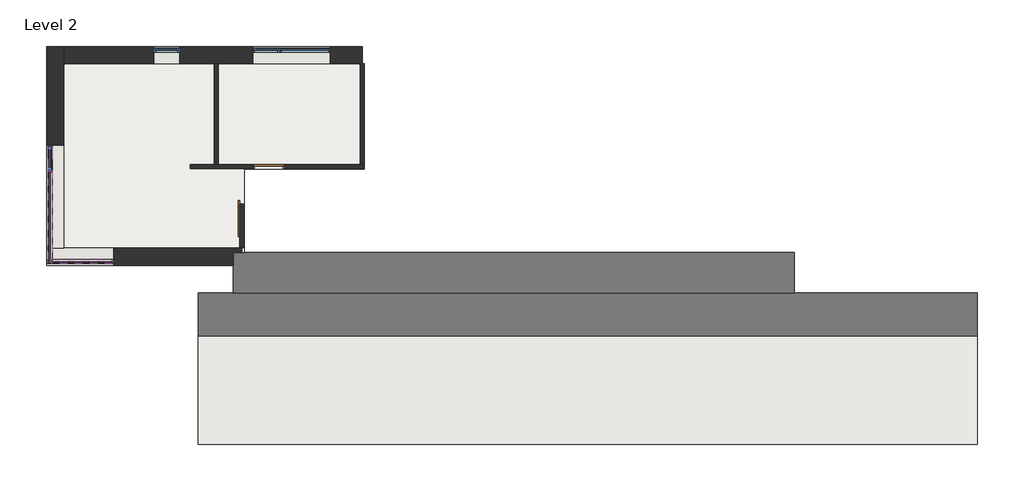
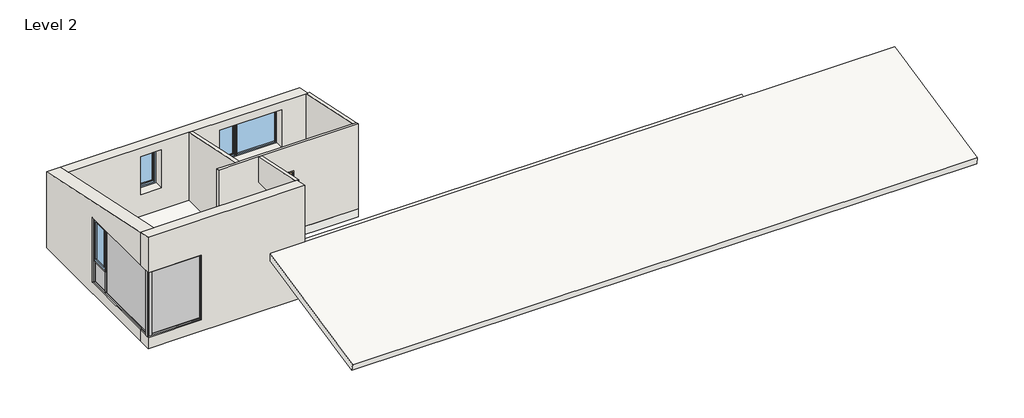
# One storey: 13 members, 7 walls, 4 plates, 3 windows, 2 doors, 2 roofs, 1 slab.
"""IFC4 building model written with IfcOpenShell, lengths in millimetres."""

from ifc_helpers import new_model, si_unit, frame, origin, place, context, project, spatial, polyline, outline, extrude, faceted_brep, transform, mapped, element, save
from components import int_single_flush_900x2200_mm_8e8544e1, int_sliding_door_on_wall_m9_x22_8b50374d, rectangular_mullion_exterior_115x115mm_57de83c7, rectangular_mullion_exterior_50x115mm_8158ba62, rectangular_mullion_exterior_50x115mm_e2bb2832, rectangular_mullion_exterior_50x115mm_ecb5ba73, rectangular_mullion_exterior_50x115mm_c391e601, rectangular_mullion_exterior_50x115mm_3f1db0ee, rectangular_mullion_exterior_50x115mm_459bfba9, rectangular_mullion_exterior_50x115mm_824df4a9, rectangular_mullion_exterior_50x115mm_8a649f50, rectangular_mullion_exterior_50x115mm_27772c88, empty_system_panel_empty_d00b11f0, system_panel_exterior_glass_22mm_989a1269, system_panel_exterior_glass_22mm_f0f81b33, system_panel_exterior_glass_22mm_53e73ce7, cw_single_light_8c0b10de, single_light_720x1400_mm_b30d6d94, window_assembly_individual_2160x1400_mm_0ca40763

model = new_model("IFC4")

# Units and contexts
model_context = context("Model", 3, world=origin())
ifc_project = project(units=[si_unit("LENGTHUNIT", "METRE", prefix="MILLI")], contexts=[model_context])

# Site, building, storey
site = spatial("IfcSite", under=ifc_project)
building = spatial("IfcBuilding", under=site)
storey = spatial("IfcBuildingStorey", under=building, Name="Level 2", Elevation=2000.0)

# Doors
placement = place(None, origin())
int_single_flush_900x2200_mm_shape = int_single_flush_900x2200_mm_8e8544e1(model_context)
element("IfcDoor", 1, ObjectType="Int. Single-Flush : 900x2200 mm", at=placement, inside=storey, context=model_context, shape_type="MappedRepresentation", body=[
    mapped(int_single_flush_900x2200_mm_shape, transform((5130.0, 6600.0, 2000.0), x_axis=(-1.0, 0.0, 0.0), y_axis=(0.0, -1.0, 0.0), z_axis=(0.0, 0.0, 1.0))),
])
int_sliding_door_on_wall_m9_x22_shape = int_sliding_door_on_wall_m9_x22_8b50374d(model_context)
element("IfcDoor", 2, ObjectType="Int. Sliding Door on wall : M9 x22", at=placement, inside=storey, context=model_context, shape_type="MappedRepresentation", body=[
    mapped(int_sliding_door_on_wall_m9_x22_shape, transform((4430.0, 6036.0, 2000.0), x_axis=(0.0, 1.0, 0.0), y_axis=(-1.0, 0.0, 0.0), z_axis=(0.0, 0.0, 1.0))),
])

# Members
rectangular_mullion_exterior_115x115mm_shape = rectangular_mullion_exterior_115x115mm_57de83c7(model_context)
element("IfcMember", 3, ObjectType="Rectangular Mullion : Exterior - 115x115mm", at=placement, inside=storey, context=model_context, shape_type="MappedRepresentation", body=[
    mapped(rectangular_mullion_exterior_115x115mm_shape, transform((-972.5, 3890.0, 2000.0), x_axis=(-1.0, 0.0, 0.0), y_axis=(0.0, 1.0, 0.0), z_axis=(0.0, 0.0, -1.0))),
])
rectangular_mullion_exterior_50x115mm_shape = rectangular_mullion_exterior_50x115mm_8158ba62(model_context)
element("IfcMember", 4, ObjectType="Rectangular Mullion : Exterior - 50x115mm", at=placement, inside=storey, context=model_context, shape_type="MappedRepresentation", body=[
    mapped(rectangular_mullion_exterior_50x115mm_shape, transform((800.0, 3890.0, 4400.0), x_axis=(1.0, 0.0, 0.0), y_axis=(0.0, 1.0, 0.0), z_axis=(0.0, 0.0, 1.0))),
])
rectangular_mullion_exterior_50x115mm_2_shape = rectangular_mullion_exterior_50x115mm_e2bb2832(model_context)
element("IfcMember", 5, ObjectType="Rectangular Mullion : Exterior - 50x115mm", at=placement, inside=storey, context=model_context, shape_type="MappedRepresentation", body=[
    mapped(rectangular_mullion_exterior_50x115mm_2_shape, transform((-915.0, 3890.0, 4400.0), x_axis=(0.0, 0.0, 1.0), y_axis=(0.0, 1.0, 0.0), z_axis=(-1.0, 0.0, 0.0))),
])
element("IfcMember", 6, ObjectType="Rectangular Mullion : Exterior - 50x115mm", at=placement, inside=storey, context=model_context, shape_type="MappedRepresentation", body=[
    mapped(rectangular_mullion_exterior_50x115mm_2_shape, transform((750.0, 3890.0, 2000.0), x_axis=(0.0, 0.0, -1.0), y_axis=(0.0, 1.0, 0.0), z_axis=(1.0, 0.0, 0.0))),
])
rectangular_mullion_exterior_50x115mm_3_shape = rectangular_mullion_exterior_50x115mm_ecb5ba73(model_context)
element("IfcMember", 7, ObjectType="Rectangular Mullion : Exterior - 50x115mm", at=placement, inside=storey, context=model_context, shape_type="MappedRepresentation", body=[
    mapped(rectangular_mullion_exterior_50x115mm_3_shape, transform((-1030.0, 7150.0, 2800.0), x_axis=(0.0, 0.0, 1.0), y_axis=(1.0, 0.0, 0.0), z_axis=(0.0, 1.0, 0.0))),
])
rectangular_mullion_exterior_50x115mm_4_shape = rectangular_mullion_exterior_50x115mm_c391e601(model_context)
element("IfcMember", 8, ObjectType="Rectangular Mullion : Exterior - 50x115mm", at=placement, inside=storey, context=model_context, shape_type="MappedRepresentation", body=[
    mapped(rectangular_mullion_exterior_50x115mm_4_shape, transform((-1030.0, 7200.0, 2000.0), x_axis=(0.0, 1.0, 0.0), y_axis=(1.0, 0.0, 0.0), z_axis=(0.0, 0.0, -1.0))),
])
rectangular_mullion_exterior_50x115mm_5_shape = rectangular_mullion_exterior_50x115mm_3f1db0ee(model_context)
element("IfcMember", 9, ObjectType="Rectangular Mullion : Exterior - 50x115mm", at=placement, inside=storey, context=model_context, shape_type="MappedRepresentation", body=[
    mapped(rectangular_mullion_exterior_50x115mm_5_shape, transform((-1030.0, 7200.0, 2800.0), x_axis=(0.0, 1.0, 0.0), y_axis=(1.0, 0.0, 0.0), z_axis=(0.0, 0.0, -1.0))),
])
rectangular_mullion_exterior_50x115mm_6_shape = rectangular_mullion_exterior_50x115mm_459bfba9(model_context)
element("IfcMember", 10, ObjectType="Rectangular Mullion : Exterior - 50x115mm", at=placement, inside=storey, context=model_context, shape_type="MappedRepresentation", body=[
    mapped(rectangular_mullion_exterior_50x115mm_6_shape, transform((-1030.0, 6480.0, 2050.0), x_axis=(0.0, 1.0, 0.0), y_axis=(1.0, 0.0, 0.0), z_axis=(0.0, 0.0, -1.0))),
])
rectangular_mullion_exterior_50x115mm_7_shape = rectangular_mullion_exterior_50x115mm_824df4a9(model_context)
element("IfcMember", 11, ObjectType="Rectangular Mullion : Exterior - 50x115mm", at=placement, inside=storey, context=model_context, shape_type="MappedRepresentation", body=[
    mapped(rectangular_mullion_exterior_50x115mm_7_shape, transform((-1030.0, 6480.0, 2000.0), x_axis=(0.0, 0.0, -1.0), y_axis=(1.0, 0.0, 0.0), z_axis=(0.0, -1.0, 0.0))),
])
element("IfcMember", 12, ObjectType="Rectangular Mullion : Exterior - 50x115mm", at=placement, inside=storey, context=model_context, shape_type="MappedRepresentation", body=[
    mapped(rectangular_mullion_exterior_50x115mm_7_shape, transform((-1030.0, 7150.0, 4400.0), x_axis=(0.0, 0.0, 1.0), y_axis=(1.0, 0.0, 0.0), z_axis=(0.0, 1.0, 0.0))),
])
rectangular_mullion_exterior_50x115mm_8_shape = rectangular_mullion_exterior_50x115mm_8a649f50(model_context)
element("IfcMember", 13, ObjectType="Rectangular Mullion : Exterior - 50x115mm", at=placement, inside=storey, context=model_context, shape_type="MappedRepresentation", body=[
    mapped(rectangular_mullion_exterior_50x115mm_8_shape, transform((-1030.0, 6480.0, 2800.0), x_axis=(0.0, 1.0, 0.0), y_axis=(1.0, 0.0, 0.0), z_axis=(0.0, 0.0, -1.0))),
])
rectangular_mullion_exterior_50x115mm_9_shape = rectangular_mullion_exterior_50x115mm_27772c88(model_context)
element("IfcMember", 14, ObjectType="Rectangular Mullion : Exterior - 50x115mm", at=placement, inside=storey, context=model_context, shape_type="MappedRepresentation", body=[
    mapped(rectangular_mullion_exterior_50x115mm_9_shape, transform((-1030.0, 4005.0, 2000.0), x_axis=(0.0, 0.0, -1.0), y_axis=(1.0, 0.0, 0.0), z_axis=(0.0, -1.0, 0.0))),
])
element("IfcMember", 15, ObjectType="Rectangular Mullion : Exterior - 50x115mm", at=placement, inside=storey, context=model_context, shape_type="MappedRepresentation", body=[
    mapped(rectangular_mullion_exterior_50x115mm_9_shape, transform((-1030.0, 6480.0, 4400.0), x_axis=(0.0, 0.0, 1.0), y_axis=(1.0, 0.0, 0.0), z_axis=(0.0, 1.0, 0.0))),
])

# Plates
empty_system_panel_empty_shape = empty_system_panel_empty_d00b11f0(model_context)
element("IfcPlate", 16, ObjectType="Empty System Panel : Empty", at=placement, inside=storey, context=model_context, shape_type="MappedRepresentation", body=[
    mapped(empty_system_panel_empty_shape, transform((-1055.0, 3890.0, 2000.0), x_axis=(-1.0, 0.0, 0.0), y_axis=(0.0, -1.0, 0.0), z_axis=(0.0, 0.0, 1.0))),
])
system_panel_exterior_glass_22mm_shape = system_panel_exterior_glass_22mm_989a1269(model_context)
element("IfcPlate", 17, ObjectType="System Panel : Exterior - Glass 22mm", at=placement, inside=storey, context=model_context, shape_type="MappedRepresentation", body=[
    mapped(system_panel_exterior_glass_22mm_shape, transform((-82.5, 3890.0, 2050.0), x_axis=(-1.0, 0.0, 0.0), y_axis=(0.0, -1.0, 0.0), z_axis=(0.0, 0.0, 1.0))),
])
system_panel_exterior_glass_22mm_2_shape = system_panel_exterior_glass_22mm_f0f81b33(model_context)
element("IfcPlate", 18, ObjectType="System Panel : Exterior - Glass 22mm", at=placement, inside=storey, context=model_context, shape_type="MappedRepresentation", body=[
    mapped(system_panel_exterior_glass_22mm_2_shape, transform((-1030.0, 6827.5, 2050.0), x_axis=(0.0, 1.0, 0.0), y_axis=(-1.0, 0.0, 0.0), z_axis=(0.0, 0.0, 1.0))),
])
system_panel_exterior_glass_22mm_3_shape = system_panel_exterior_glass_22mm_53e73ce7(model_context)
element("IfcPlate", 19, ObjectType="System Panel : Exterior - Glass 22mm", at=placement, inside=storey, context=model_context, shape_type="MappedRepresentation", body=[
    mapped(system_panel_exterior_glass_22mm_3_shape, transform((-1030.0, 5230.0, 2050.0), x_axis=(0.0, 1.0, 0.0), y_axis=(-1.0, 0.0, 0.0), z_axis=(0.0, 0.0, 1.0))),
])

# Roofs
element("IfcRoof", 20, ObjectType="Generic - 250mm", at=placement, inside=storey, context=model_context, shape_type="SweptSolid", body=[
    extrude(outline(polyline([(3840.0, 3362.7828084), (-1108.0220773, 2311.0482485), (-1160.0, 2555.5851487), (3840.0, 3618.3679571), (3840.0, 3362.7828084)])), frame((3160.0, 0.0, 0.0), z_axis=(1.0, 0.0, 0.0), x_axis=(0.0, 1.0, 0.0)), (0.0, 0.0, 1.0), 21760.0),
])
element("IfcRoof", 21, ObjectType="Generic - 250mm", at=placement, inside=storey, context=model_context, shape_type="Brep", body=[
    faceted_brep([(19800.0, 4200.0, 3183.7180218), (19800.0, 120.0, 2316.4872502), (4140.0, 120.0, 2316.4872502), (4140.0, 3840.0, 3107.1976596), (4140.0, 4200.0, 3183.7180218), (4440.0, 4200.0, 3183.7180218), (19800.0, 120.0, 2572.0723989), (19800.0, 4200.0, 3439.3031706), (4380.0, 4200.0, 3439.3031706), (4140.0, 4200.0, 3439.3031706), (4140.0, 3840.0, 3362.7828084), (4140.0, 120.0, 2572.0723989)], [[[0, 1, 2, 3, 4, 5]], [[6, 7, 8, 9, 10, 11]], [[1, 6, 11, 2]], [[7, 6, 1, 0]], [[11, 10, 9, 4, 3, 2]], [[9, 8, 7, 0, 5, 4]]]),
])

# Slab
element("IfcSlab", 22, ObjectType="Generic - 300mm", at=placement, inside=storey, context=model_context, shape_type="SweptSolid", body=[
    extrude(outline(polyline([(7800.0, 9480.0), (7800.0, 6540.0), (4440.0, 6540.0), (4440.0, 4320.0), (-600.0, 4320.0), (-600.0, 9480.0), (7800.0, 9480.0)])), frame((0.0, 0.0, 1700.0), z_axis=(0.0, 0.0, 1.0), x_axis=(1.0, 0.0, 0.0)), (0.0, 0.0, 1.0), 300.0),
])

# Walls
element("IfcWall", 23, ObjectType="Generic - 120mm (Interior)", at=placement, inside=storey, context=model_context, shape_type="SweptSolid", body=[
    extrude(outline(polyline([(9480.0, 2000.0), (6660.0, 2000.0), (6660.0, 5101.4366535), (9480.0, 4502.0271496), (9480.0, 2000.0)])), frame((3600.0, 0.0, 0.0), z_axis=(1.0, 0.0, 0.0), x_axis=(0.0, 1.0, 0.0)), (0.0, 0.0, 1.0), 120.0),
])
element("IfcWall", 24, ObjectType="Generic - 120mm (Interior)", at=placement, inside=storey, context=model_context, shape_type="Brep", body=[
    faceted_brep([(2940.0, 6540.0, 5126.9434409), (2940.0, 6540.0, 2000.0), (4680.0, 6540.0, 2000.0), (4680.0, 6540.0, 4200.0), (5580.0, 6540.0, 4200.0), (5580.0, 6540.0, 2000.0), (7800.0, 6540.0, 2000.0), (7800.0, 6540.0, 2300.0), (7800.0, 6540.0, 2600.0), (7800.0, 6540.0, 4400.0), (7800.0, 6540.0, 5126.9434409), (4440.0, 6540.0, 5126.9434409), (4320.0, 6540.0, 5126.9434409), (2940.0, 6660.0, 2000.0), (2940.0, 6660.0, 5101.4366535), (3600.0, 6660.0, 5101.4366535), (3720.0, 6660.0, 5101.4366535), (7680.0, 6660.0, 5101.4366535), (7800.0, 6660.0, 5101.4366535), (7800.0, 6660.0, 4400.0), (7800.0, 6660.0, 2600.0), (7800.0, 6660.0, 2300.0), (7800.0, 6660.0, 2000.0), (7680.0, 6660.0, 2000.0), (5580.0, 6660.0, 2000.0), (5580.0, 6660.0, 4200.0), (4680.0, 6660.0, 4200.0), (4680.0, 6660.0, 2000.0), (3720.0, 6660.0, 2000.0), (3600.0, 6660.0, 2000.0)], [[[0, 1, 2, 3, 4, 5, 6, 7, 8, 9, 10, 11, 12]], [[13, 14, 15, 16, 17, 18, 19, 20, 21, 22, 23, 24, 25, 26, 27, 28, 29]], [[1, 13, 29, 28, 27, 2]], [[22, 6, 5, 24, 23]], [[1, 0, 14, 13]], [[0, 12, 11, 10, 18, 17, 16, 15, 14]], [[18, 10, 9, 8, 7, 6, 22, 21, 20, 19]], [[26, 3, 2, 27]], [[3, 26, 25, 4]], [[4, 25, 24, 5]]]),
])
element("IfcWall", 25, ObjectType="Generic - 120mm (Interior)", at=placement, inside=storey, context=model_context, shape_type="Brep", body=[
    faceted_brep([(7800.0, 6660.0, 2000.0), (7800.0, 9480.0, 2000.0), (7800.0, 9480.0, 4502.0271496), (7800.0, 6660.0, 5101.4366535), (7680.0, 6660.0, 2000.0), (7680.0, 6660.0, 5101.4366535), (7680.0, 9480.0, 4502.0271496), (7680.0, 9480.0, 2000.0), (7740.0, 9480.0, 4502.0271496)], [[[0, 1, 2, 3]], [[4, 5, 6, 7]], [[1, 0, 4, 7]], [[3, 2, 8, 6, 5]], [[0, 3, 5, 4]], [[2, 1, 7, 6, 8]]]),
])
element("IfcWall", 26, ObjectType="Generic - 120mm (Interior)", at=placement, inside=storey, context=model_context, shape_type="Brep", body=[
    faceted_brep([(4440.0, 6540.0, 5126.9434409), (4440.0, 4320.0, 5598.8190078), (4440.0, 4320.0, 3200.0), (4440.0, 4320.0, 2000.0), (4440.0, 5556.0, 2000.0), (4440.0, 5556.0, 4212.0), (4440.0, 6540.0, 4212.0), (4320.0, 4320.0, 5598.8190078), (4320.0, 6540.0, 5126.9434409), (4320.0, 6540.0, 4212.0), (4320.0, 5556.0, 4212.0), (4320.0, 5556.0, 2000.0), (4320.0, 4320.0, 2000.0), (4380.0, 4320.0, 2000.0), (4380.0, 4320.0, 5598.8190078)], [[[0, 1, 2, 3, 4, 5, 6]], [[7, 8, 9, 10, 11, 12]], [[3, 13, 12, 11, 4]], [[8, 0, 6, 9]], [[1, 0, 8, 7, 14]], [[12, 13, 3, 2, 1, 14, 7]], [[5, 10, 9, 6]], [[10, 5, 4, 11]]]),
])
element("IfcWall", 27, ObjectType="Generic - 480mm (Exterior)", at=placement, inside=storey, context=model_context, shape_type="Brep", body=[
    faceted_brep([(4380.0, 4320.0, 1600.0), (0.0, 4320.0, 1600.0), (-600.0, 4320.0, 1600.0), (-1080.0, 4320.0, 1600.0), (-1080.0, 4320.0, 2000.0), (800.0, 4320.0, 2000.0), (800.0, 4320.0, 4400.0), (-1080.0, 4320.0, 4400.0), (-1080.0, 4320.0, 5598.8190078), (-600.0, 4320.0, 5598.8190078), (4320.0, 4320.0, 5598.8190078), (4380.0, 4320.0, 5598.8190078), (4380.0, 4320.0, 3200.0), (4440.0, 4320.0, 3200.0), (4440.0, 4320.0, 2000.0), (4380.0, 4320.0, 2000.0), (4380.0, 4320.0, 1700.0), (-1080.0, 3840.0, 1600.0), (0.0, 3840.0, 1600.0), (4380.0, 3840.0, 1600.0), (4380.0, 3840.0, 2000.0), (4440.0, 3840.0, 2000.0), (4440.0, 3840.0, 3107.1976596), (4140.0, 3840.0, 3107.1976596), (4140.0, 3840.0, 3362.7828084), (4380.0, 3840.0, 3362.7828084), (4380.0, 3840.0, 5700.8461574), (-1080.0, 3840.0, 5700.8461574), (-1080.0, 3840.0, 4400.0), (800.0, 3840.0, 4400.0), (800.0, 3840.0, 2000.0), (-1080.0, 3840.0, 2000.0), (4380.0, 4200.0, 2000.0), (4380.0, 4200.0, 3439.3031706), (4380.0, 4200.0, 3200.0), (4440.0, 4200.0, 2000.0), (4440.0, 4200.0, 3200.0), (4440.0, 4200.0, 3183.7180218), (4140.0, 4200.0, 3183.7180218), (4140.0, 4200.0, 3439.3031706)], [[[0, 1, 2, 3, 4, 5, 6, 7, 8, 9, 10, 11, 12, 13, 14, 15, 16]], [[17, 18, 19, 20, 21, 22, 23, 24, 25, 26, 27, 28, 29, 30, 31]], [[3, 2, 1, 0, 19, 18, 17]], [[3, 17, 31, 4]], [[27, 8, 7, 28]], [[19, 0, 16, 15, 32, 20]], [[12, 11, 26, 25, 33, 34]], [[11, 10, 9, 8, 27, 26]], [[21, 20, 32, 15, 14, 35]], [[13, 12, 34, 36]], [[14, 13, 36, 37, 22, 21, 35]], [[37, 38, 23, 22]], [[24, 39, 33, 25]], [[38, 39, 24, 23]], [[39, 38, 37, 36, 34, 33]], [[5, 30, 29, 6]], [[6, 29, 28, 7]], [[30, 5, 4, 31]]]),
])
element("IfcWall", 28, ObjectType="Generic - 480mm (Exterior)", at=placement, inside=storey, context=model_context, shape_type="Brep", body=[
    faceted_brep([(-600.0, 4320.0, 1600.0), (-600.0, 9480.0, 1600.0), (-600.0, 9960.0, 1600.0), (-600.0, 9960.0, 4400.0), (-600.0, 9480.0, 4502.0271496), (-600.0, 4320.0, 5598.8190078), (-600.0, 4320.0, 4400.0), (-600.0, 7200.0, 4400.0), (-600.0, 7200.0, 2000.0), (-600.0, 4320.0, 2000.0), (-1080.0, 9960.0, 1600.0), (-1080.0, 4320.0, 1600.0), (-1080.0, 4320.0, 2000.0), (-1080.0, 7200.0, 2000.0), (-1080.0, 7200.0, 4400.0), (-1080.0, 4320.0, 4400.0), (-1080.0, 4320.0, 5598.8190078), (-1080.0, 9960.0, 4400.0)], [[[0, 1, 2, 3, 4, 5, 6, 7, 8, 9]], [[10, 11, 12, 13, 14, 15, 16, 17]], [[2, 1, 0, 11, 10]], [[11, 0, 9, 12]], [[5, 16, 15, 6]], [[3, 2, 10, 17]], [[5, 4, 3, 17, 16]], [[14, 7, 6, 15]], [[7, 14, 13, 8]], [[8, 13, 12, 9]]]),
])
element("IfcWall", 29, ObjectType="Generic - 480mm (Exterior)", at=placement, inside=storey, context=model_context, shape_type="Brep", body=[
    faceted_brep([(-600.0, 9480.0, 1600.0), (0.0, 9480.0, 1600.0), (1920.0, 9480.0, 1600.0), (2640.0, 9480.0, 1600.0), (4680.0, 9480.0, 1600.0), (6840.0, 9480.0, 1600.0), (7740.0, 9480.0, 1600.0), (7740.0, 9480.0, 2600.0), (7740.0, 9480.0, 4502.0271496), (7680.0, 9480.0, 4502.0271496), (3720.0, 9480.0, 4502.0271496), (3600.0, 9480.0, 4502.0271496), (-600.0, 9480.0, 4502.0271496), (2640.0, 9480.0, 2800.0), (1920.0, 9480.0, 2800.0), (1920.0, 9480.0, 4200.0), (2640.0, 9480.0, 4200.0), (6840.0, 9480.0, 2800.0), (4680.0, 9480.0, 2800.0), (4680.0, 9480.0, 4200.0), (6840.0, 9480.0, 4200.0), (-600.0, 9960.0, 1600.0), (-600.0, 9960.0, 4400.0), (7740.0, 9960.0, 4400.0), (7740.0, 9960.0, 2600.0), (7740.0, 9960.0, 1600.0), (6840.0, 9960.0, 1600.0), (4680.0, 9960.0, 1600.0), (2640.0, 9960.0, 1600.0), (1920.0, 9960.0, 1600.0), (0.0, 9960.0, 1600.0), (2640.0, 9960.0, 2800.0), (2640.0, 9960.0, 4200.0), (1920.0, 9960.0, 4200.0), (1920.0, 9960.0, 2800.0), (6840.0, 9960.0, 2800.0), (6840.0, 9960.0, 4200.0), (4680.0, 9960.0, 4200.0), (4680.0, 9960.0, 2800.0)], [[[0, 1, 2, 3, 4, 5, 6, 7, 8, 9, 10, 11, 12], [13, 14, 15, 16], [17, 18, 19, 20]], [[21, 22, 23, 24, 25, 26, 27, 28, 29, 30], [31, 32, 33, 34], [35, 36, 37, 38]], [[6, 5, 4, 3, 2, 1, 0, 21, 30, 29, 28, 27, 26, 25]], [[0, 12, 22, 21]], [[6, 25, 24, 23, 8, 7]], [[12, 11, 10, 9, 8, 23, 22]], [[32, 31, 13, 16]], [[33, 32, 16, 15]], [[34, 33, 15, 14]], [[31, 34, 14, 13]], [[36, 35, 17, 20]], [[37, 36, 20, 19]], [[38, 37, 19, 18]], [[35, 38, 18, 17]]]),
])

# Windows
cw_single_light_shape = cw_single_light_8c0b10de(model_context)
element("IfcWindow", 30, ObjectType="CW Single-Light : CW Single-Light - Broad", at=placement, inside=storey, context=model_context, shape_type="MappedRepresentation", body=[
    mapped(cw_single_light_shape, transform((-1030.0, 6827.5, 2825.0), x_axis=(0.0, 1.0, 0.0), y_axis=(-1.0, 0.0, 0.0), z_axis=(0.0, 0.0, 1.0))),
])
single_light_720x1400_mm_shape = single_light_720x1400_mm_b30d6d94(model_context)
element("IfcWindow", 31, ObjectType="Single-Light : 720x1400 mm", at=placement, inside=storey, context=model_context, shape_type="MappedRepresentation", body=[
    mapped(single_light_720x1400_mm_shape, transform((2280.0, 9720.0, 2000.0), x_axis=(-1.0, 0.0, 0.0), y_axis=(0.0, -1.0, 0.0), z_axis=(0.0, 0.0, 1.0))),
])
window_assembly_individual_2160x1400_mm_shape = window_assembly_individual_2160x1400_mm_0ca40763(model_context)
element("IfcWindow", 32, ObjectType="Window Assembly Individual : 2160x1400 mm", at=placement, inside=storey, context=model_context, shape_type="MappedRepresentation", body=[
    mapped(window_assembly_individual_2160x1400_mm_shape, transform((5760.0, 9720.0, 2000.0), x_axis=(-1.0, 0.0, 0.0), y_axis=(0.0, -1.0, 0.0), z_axis=(0.0, 0.0, 1.0))),
])

save(model, "model.ifc")
